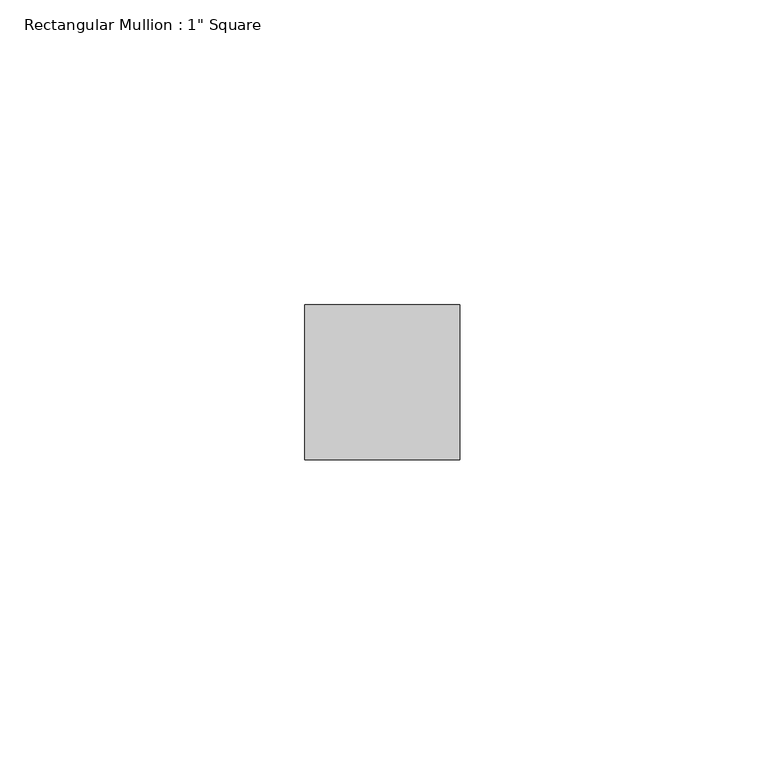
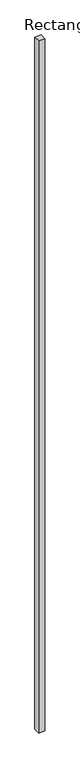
"""IFC4 building model written with IfcOpenShell, lengths in millimetres: member geometry."""

from ifc_helpers import new_model, si_unit, frame, origin, place, context, project, spatial, polyline, outline, extrude, source, transform, mapped, element, save


def member_b4df3876(model_context):
    return source(origin(), model_context, "Body", "SweptSolid", [
        extrude(outline(polyline([(12.7, 12.7), (12.7, -12.7), (-12.7, -12.7), (-12.7, 12.7), (12.7, 12.7)])), frame((0.0, 0.0, -2923.7370769), z_axis=(0.0, 0.0, 1.0), x_axis=(1.0, 0.0, 0.0)), (0.0, 0.0, 1.0), 2923.7370769),
    ])


if __name__ == "__main__":
    model = new_model("IFC4")
    model_context = context("Model", 3, world=origin())
    ifc_project = project(units=[si_unit("LENGTHUNIT", "METRE", prefix="MILLI")], contexts=[model_context])
    site = spatial("IfcSite", under=ifc_project)
    building = spatial("IfcBuilding", under=site)
    placement = place(None, origin())
    member_shape = member_b4df3876(model_context)
    element("IfcMember", 1, ObjectType="Rectangular Mullion : 1\" Square", at=placement, inside=building, context=model_context, shape_type="MappedRepresentation", body=[
        mapped(member_shape, transform((0.0, 0.0, 0.0), x_axis=(1.0, 0.0, 0.0), y_axis=(0.0, 1.0, 0.0), z_axis=(0.0, 0.0, 1.0))),
    ])
    save(model, "model.ifc")
